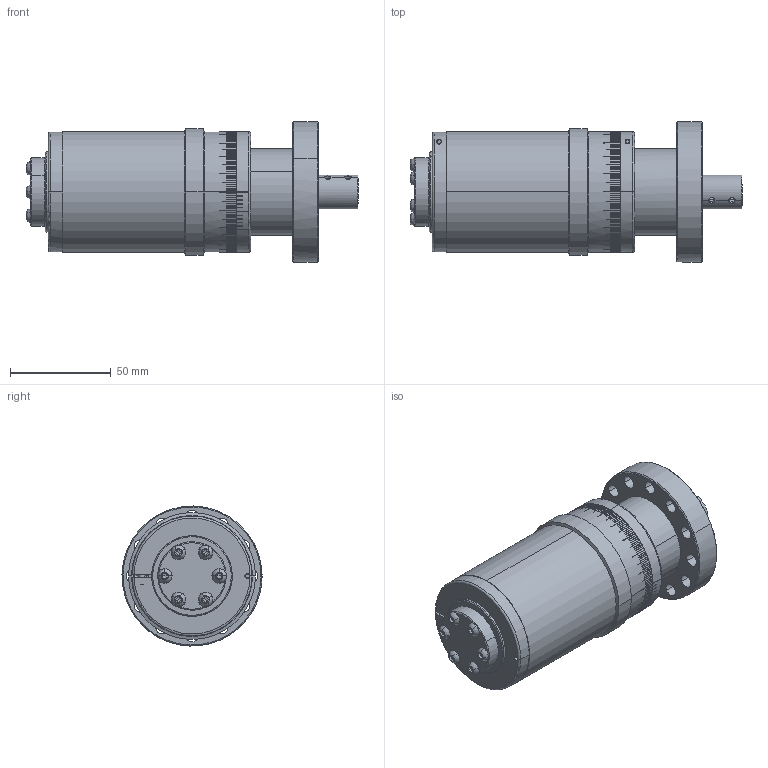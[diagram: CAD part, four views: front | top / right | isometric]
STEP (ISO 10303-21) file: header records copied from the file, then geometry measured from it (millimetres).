
FILE_DESCRIPTION(('Confidential','CAx-IF Rec.Pracs.--- Model Styling and Organization---1.2---2011-12-15'),'2;1');
FILE_NAME('W:\KONSTRUKTION\PRODUCTS\RF\RF40\RF40_Rev_B.stp','2025-02-18T08:44:39+00:00',('none'),('Ferrovac AG'),'CATIA Version 5 Release 21 SP 6 (IN-10)','CATIA V5 STEP AP214','PROPERTY OF FERROVAC AG');
FILE_SCHEMA(('AUTOMOTIVE_DESIGN { 1 0 10303 214 1 1 1 1 }'));
Products named in the file (1): RF40_AllCATPart
Bounding box: 164.72 x 69.48 x 69.48 mm (x, y, z)
Volume: 274455.6 mm3; surface area: 128381.1 mm2
Topology: 5 solids, 28 shells, 2695 faces, 7503 edges, 4458 vertices
Faces by surface type: plane 1507, cylinder 572, sphere 272, torus 180, cone 140, revolution 24
Entity records: 83348 total; most frequent: CARTESIAN_POINT 21267, ORIENTED_EDGE 14174, DIRECTION 10364, EDGE_CURVE 7087, AXIS2_PLACEMENT_3D 4527, VERTEX_POINT 4452, VECTOR 3702, LINE 3702
